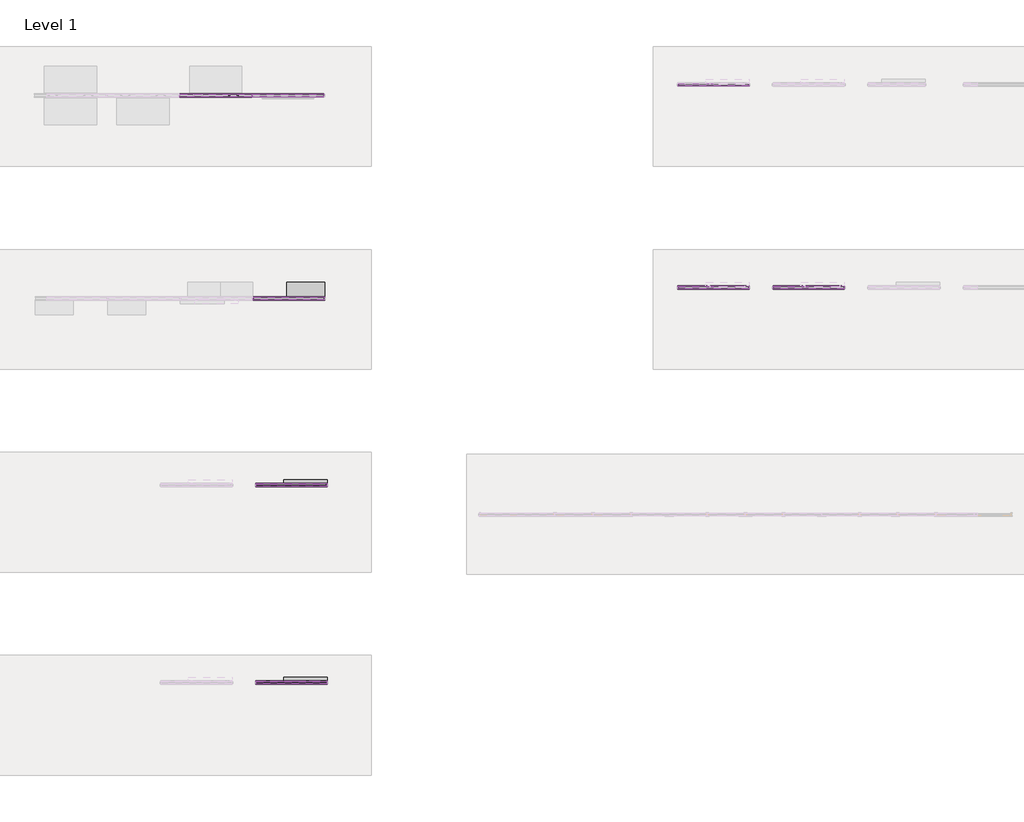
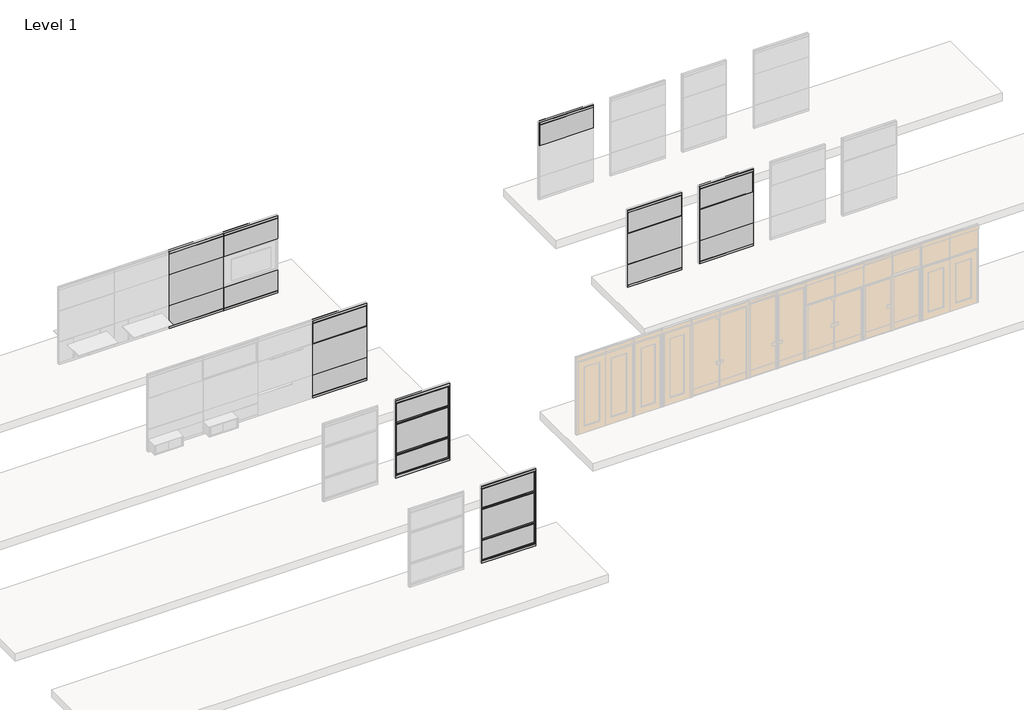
# One storey, part 7 of 13: 102 proxies, 3 furniture elements.
"""IFC4 building model written with IfcOpenShell, lengths in millimetres."""

from ifc_helpers import new_model, si_unit, origin, place, context, project, spatial, transform, mapped, element, save
from components import fascia_teknion_ceiling_and_base_ffb1_18eda79c, fascia_teknion_ceiling_and_base_ffb1_eec853f0, fascia_teknion_ceiling_and_base_ffb1_01755f40, fascia_teknion_ceiling_and_base_ffb1_68f9ae85, fascia_teknion_ceiling_and_base_ffb1_afe21305, fascia_teknion_ceiling_and_base_ffb1_57c76872, frame_teknion_horizontal_rail_fkk_5c31f45b, frame_teknion_horizontal_rail_fkk_aab90c89, frame_teknion_horizontal_rail_fkk_86cbbdfc, frame_teknion_landscape_vertical_post_b621eeab, glass_fascia_c39cd329, glass_fascia_9be81d33, glass_fascia_3dd16702, glass_fascia_dc85a8b2, glass_fascia_e55c546c, panel_fascia_teknion_level_i_6b417b37, level_i_b1a3b441, level_i_4afae145, level_i_45b542d7, level_i_5a75796b, level_i_bottom_8ccd5de8, level_i_top_caefc860, panel_fascia_teknion_level_ii_750ba18f, level_ii_bdfab47d, level_ii_231fb084, level_ii_554533ae, level_ii_4f3a5f4c, level_ii_0c7391c9, level_ii_bottom_46093f10, level_iii_45eca7cc, level_iii_4951afc5, level_iii_1ffc0a55, level_iii_bffd5232, panel_fascia_teknion_level_i_ec07af2e, panel_fascia_teknion_level_iii_34db1994, panel_fascia_teknion_level_iii_4fd3d2fe, aluminum_shelf_9e608764, furniture_d19da1b5

model = new_model("IFC4")

# Units and contexts
model_context = context("Model", 3, world=origin())
ifc_project = project(units=[si_unit("LENGTHUNIT", "METRE", prefix="MILLI")], contexts=[model_context])

# Site, building, storey
site = spatial("IfcSite", under=ifc_project)
building = spatial("IfcBuilding", under=site)
storey = spatial("IfcBuildingStorey", under=building, Name="Level 1", Elevation=0.0)

# Proxies
placement = place(None, origin())
fascia_teknion_ceiling_and_base_ffb1_shape = fascia_teknion_ceiling_and_base_ffb1_18eda79c(model_context)
element("IfcBuildingElementProxy", 1, Name="Fascia-Teknion-Ceiling_and_Base : FFB1", ObjectType="Fascia-Teknion-Ceiling_and_Base : FFB1", at=placement, inside=storey, context=model_context, shape_type="MappedRepresentation", body=[
    mapped(fascia_teknion_ceiling_and_base_ffb1_shape, transform((-18726.1661615, 16394.5429796, 15.875), x_axis=(1.0, 0.0, 0.0), y_axis=(0.0, 1.0, 0.0), z_axis=(0.0, 0.0, 1.0))),
])
element("IfcBuildingElementProxy", 2, Name="Fascia-Teknion-Ceiling_and_Base : FFB1", ObjectType="Fascia-Teknion-Ceiling_and_Base : FFB1", at=placement, inside=storey, context=model_context, shape_type="MappedRepresentation", body=[
    mapped(fascia_teknion_ceiling_and_base_ffb1_shape, transform((-16059.1661615, 16394.5429796, 15.875), x_axis=(1.0, 0.0, 0.0), y_axis=(0.0, 1.0, 0.0), z_axis=(0.0, 0.0, 1.0))),
])
element("IfcBuildingElementProxy", 3, Name="Fascia-Teknion-Ceiling_and_Base : FFB1", ObjectType="Fascia-Teknion-Ceiling_and_Base : FFB1", at=placement, inside=storey, context=model_context, shape_type="MappedRepresentation", body=[
    mapped(fascia_teknion_ceiling_and_base_ffb1_shape, transform((-30537.1661615, 10865.4163277, 15.875), x_axis=(1.0, 0.0, 0.0), y_axis=(0.0, 1.0, 0.0), z_axis=(0.0, 0.0, 1.0))),
])
element("IfcBuildingElementProxy", 4, Name="Fascia-Teknion-Ceiling_and_Base : FFB1", ObjectType="Fascia-Teknion-Ceiling_and_Base : FFB1", at=placement, inside=storey, context=model_context, shape_type="MappedRepresentation", body=[
    mapped(fascia_teknion_ceiling_and_base_ffb1_shape, transform((-30537.1661615, 10946.4423277, 15.875), x_axis=(1.0, 0.0, 0.0), y_axis=(0.0, 1.0, 0.0), z_axis=(0.0, 0.0, 1.0))),
])
element("IfcBuildingElementProxy", 5, Name="Fascia-Teknion-Ceiling_and_Base : FFB1", ObjectType="Fascia-Teknion-Ceiling_and_Base : FFB1", at=placement, inside=storey, context=model_context, shape_type="MappedRepresentation", body=[
    mapped(fascia_teknion_ceiling_and_base_ffb1_shape, transform((-30537.1661615, 10865.4163277, 2950.845), x_axis=(1.0, 0.0, 0.0), y_axis=(0.0, 1.0, 0.0), z_axis=(0.0, 0.0, 1.0))),
])
element("IfcBuildingElementProxy", 6, Name="Fascia-Teknion-Ceiling_and_Base : FFB1", ObjectType="Fascia-Teknion-Ceiling_and_Base : FFB1", at=placement, inside=storey, context=model_context, shape_type="MappedRepresentation", body=[
    mapped(fascia_teknion_ceiling_and_base_ffb1_shape, transform((-30537.1661615, 10946.4423277, 2950.845), x_axis=(1.0, 0.0, 0.0), y_axis=(0.0, 1.0, 0.0), z_axis=(0.0, 0.0, 1.0))),
])
element("IfcBuildingElementProxy", 7, Name="Fascia-Teknion-Ceiling_and_Base : FFB1", ObjectType="Fascia-Teknion-Ceiling_and_Base : FFB1", at=placement, inside=storey, context=model_context, shape_type="MappedRepresentation", body=[
    mapped(fascia_teknion_ceiling_and_base_ffb1_shape, transform((-30537.1661615, 5336.0903277, 15.875), x_axis=(1.0, 0.0, 0.0), y_axis=(0.0, 1.0, 0.0), z_axis=(0.0, 0.0, 1.0))),
])
element("IfcBuildingElementProxy", 8, Name="Fascia-Teknion-Ceiling_and_Base : FFB1", ObjectType="Fascia-Teknion-Ceiling_and_Base : FFB1", at=placement, inside=storey, context=model_context, shape_type="MappedRepresentation", body=[
    mapped(fascia_teknion_ceiling_and_base_ffb1_shape, transform((-30537.1661615, 5417.1163277, 15.875), x_axis=(1.0, 0.0, 0.0), y_axis=(0.0, 1.0, 0.0), z_axis=(0.0, 0.0, 1.0))),
])
element("IfcBuildingElementProxy", 9, Name="Fascia-Teknion-Ceiling_and_Base : FFB1", ObjectType="Fascia-Teknion-Ceiling_and_Base : FFB1", at=placement, inside=storey, context=model_context, shape_type="MappedRepresentation", body=[
    mapped(fascia_teknion_ceiling_and_base_ffb1_shape, transform((-30537.1661615, 5336.0903277, 2950.845), x_axis=(1.0, 0.0, 0.0), y_axis=(0.0, 1.0, 0.0), z_axis=(0.0, 0.0, 1.0))),
])
element("IfcBuildingElementProxy", 10, Name="Fascia-Teknion-Ceiling_and_Base : FFB1", ObjectType="Fascia-Teknion-Ceiling_and_Base : FFB1", at=placement, inside=storey, context=model_context, shape_type="MappedRepresentation", body=[
    mapped(fascia_teknion_ceiling_and_base_ffb1_shape, transform((-30537.1661615, 5417.1163277, 2950.845), x_axis=(1.0, 0.0, 0.0), y_axis=(0.0, 1.0, 0.0), z_axis=(0.0, 0.0, 1.0))),
])
fascia_teknion_ceiling_and_base_ffb1_2_shape = fascia_teknion_ceiling_and_base_ffb1_eec853f0(model_context)
element("IfcBuildingElementProxy", 11, Name="Fascia-Teknion-Ceiling_and_Base : FFB1", ObjectType="Fascia-Teknion-Ceiling_and_Base : FFB1", at=placement, inside=storey, context=model_context, shape_type="MappedRepresentation", body=[
    mapped(fascia_teknion_ceiling_and_base_ffb1_2_shape, transform((-30611.5018491, 16151.7189796, 15.875), x_axis=(1.0, 0.0, 0.0), y_axis=(0.0, 1.0, 0.0), z_axis=(0.0, 0.0, 1.0))),
])
fascia_teknion_ceiling_and_base_ffb1_3_shape = fascia_teknion_ceiling_and_base_ffb1_01755f40(model_context)
element("IfcBuildingElementProxy", 12, Name="Fascia-Teknion-Ceiling_and_Base : FFB1", ObjectType="Fascia-Teknion-Ceiling_and_Base : FFB1", at=placement, inside=storey, context=model_context, shape_type="MappedRepresentation", body=[
    mapped(fascia_teknion_ceiling_and_base_ffb1_3_shape, transform((-30611.5018491, 16089.7429796, 15.875), x_axis=(1.0, 0.0, 0.0), y_axis=(0.0, 1.0, 0.0), z_axis=(0.0, 0.0, 1.0))),
])
fascia_teknion_ceiling_and_base_ffb1_4_shape = fascia_teknion_ceiling_and_base_ffb1_68f9ae85(model_context)
element("IfcBuildingElementProxy", 13, Name="Fascia-Teknion-Ceiling_and_Base : FFB1", ObjectType="Fascia-Teknion-Ceiling_and_Base : FFB1", at=placement, inside=storey, context=model_context, shape_type="MappedRepresentation", body=[
    mapped(fascia_teknion_ceiling_and_base_ffb1_4_shape, transform((-32661.9069272, 21771.4689796, 15.875), x_axis=(1.0, 0.0, 0.0), y_axis=(0.0, 1.0, 0.0), z_axis=(0.0, 0.0, 1.0))),
])
element("IfcBuildingElementProxy", 14, Name="Fascia-Teknion-Ceiling_and_Base : FFB1", ObjectType="Fascia-Teknion-Ceiling_and_Base : FFB1", at=placement, inside=storey, context=model_context, shape_type="MappedRepresentation", body=[
    mapped(fascia_teknion_ceiling_and_base_ffb1_4_shape, transform((-32661.9069272, 21833.4449796, 15.875), x_axis=(-1.0, 0.0, 0.0), y_axis=(0.0, -1.0, 0.0), z_axis=(0.0, 0.0, 1.0))),
])
fascia_teknion_ceiling_and_base_ffb1_5_shape = fascia_teknion_ceiling_and_base_ffb1_afe21305(model_context)
element("IfcBuildingElementProxy", 15, Name="Fascia-Teknion-Ceiling_and_Base : FFB1", ObjectType="Fascia-Teknion-Ceiling_and_Base : FFB1", at=placement, inside=storey, context=model_context, shape_type="MappedRepresentation", body=[
    mapped(fascia_teknion_ceiling_and_base_ffb1_5_shape, transform((-18726.1661615, 16456.5189796, 15.875), x_axis=(1.0, 0.0, 0.0), y_axis=(0.0, 1.0, 0.0), z_axis=(0.0, 0.0, 1.0))),
])
element("IfcBuildingElementProxy", 16, Name="Fascia-Teknion-Ceiling_and_Base : FFB1", ObjectType="Fascia-Teknion-Ceiling_and_Base : FFB1", at=placement, inside=storey, context=model_context, shape_type="MappedRepresentation", body=[
    mapped(fascia_teknion_ceiling_and_base_ffb1_5_shape, transform((-16059.1661615, 16456.5189796, 15.875), x_axis=(1.0, 0.0, 0.0), y_axis=(0.0, 1.0, 0.0), z_axis=(0.0, 0.0, 1.0))),
])
element("IfcBuildingElementProxy", 17, Name="Fascia-Teknion-Ceiling_and_Base : FFC", ObjectType="Fascia-Teknion-Ceiling_and_Base : FFC", at=placement, inside=storey, context=model_context, shape_type="MappedRepresentation", body=[
    mapped(fascia_teknion_ceiling_and_base_ffb1_2_shape, transform((-30611.5018491, 16151.7189796, 2950.845), x_axis=(1.0, 0.0, 0.0), y_axis=(0.0, 1.0, 0.0), z_axis=(0.0, 0.0, 1.0))),
])
element("IfcBuildingElementProxy", 18, Name="Fascia-Teknion-Ceiling_and_Base : FFC", ObjectType="Fascia-Teknion-Ceiling_and_Base : FFC", at=placement, inside=storey, context=model_context, shape_type="MappedRepresentation", body=[
    mapped(fascia_teknion_ceiling_and_base_ffb1_3_shape, transform((-30611.5018491, 16089.7429796, 2950.845), x_axis=(1.0, 0.0, 0.0), y_axis=(0.0, 1.0, 0.0), z_axis=(0.0, 0.0, 1.0))),
])
fascia_teknion_ceiling_and_base_ffb1_6_shape = fascia_teknion_ceiling_and_base_ffb1_57c76872(model_context)
element("IfcBuildingElementProxy", 19, Name="Fascia-Teknion-Ceiling_and_Base : FFC", ObjectType="Fascia-Teknion-Ceiling_and_Base : FFC", at=placement, inside=storey, context=model_context, shape_type="MappedRepresentation", body=[
    mapped(fascia_teknion_ceiling_and_base_ffb1_6_shape, transform((-32661.9069272, 21833.4449796, 2950.845), x_axis=(1.0, 0.0, 0.0), y_axis=(0.0, 1.0, 0.0), z_axis=(0.0, 0.0, 1.0))),
])
element("IfcBuildingElementProxy", 20, Name="Fascia-Teknion-Ceiling_and_Base : FFC", ObjectType="Fascia-Teknion-Ceiling_and_Base : FFC", at=placement, inside=storey, context=model_context, shape_type="MappedRepresentation", body=[
    mapped(fascia_teknion_ceiling_and_base_ffb1_4_shape, transform((-32661.9069272, 21771.4689796, 2950.845), x_axis=(1.0, 0.0, 0.0), y_axis=(0.0, 1.0, 0.0), z_axis=(0.0, 0.0, 1.0))),
])
element("IfcBuildingElementProxy", 21, Name="Fascia-Teknion-Ceiling_and_Base : FFC", ObjectType="Fascia-Teknion-Ceiling_and_Base : FFC", at=placement, inside=storey, context=model_context, shape_type="MappedRepresentation", body=[
    mapped(fascia_teknion_ceiling_and_base_ffb1_5_shape, transform((-18726.1661615, 22138.2449796, 2950.845), x_axis=(1.0, 0.0, 0.0), y_axis=(0.0, 1.0, 0.0), z_axis=(0.0, 0.0, 1.0))),
])
element("IfcBuildingElementProxy", 22, Name="Fascia-Teknion-Ceiling_and_Base : FFC", ObjectType="Fascia-Teknion-Ceiling_and_Base : FFC", at=placement, inside=storey, context=model_context, shape_type="MappedRepresentation", body=[
    mapped(fascia_teknion_ceiling_and_base_ffb1_5_shape, transform((-18726.1661615, 16456.5189796, 2950.845), x_axis=(1.0, 0.0, 0.0), y_axis=(0.0, 1.0, 0.0), z_axis=(0.0, 0.0, 1.0))),
])
element("IfcBuildingElementProxy", 23, Name="Fascia-Teknion-Ceiling_and_Base : FFC", ObjectType="Fascia-Teknion-Ceiling_and_Base : FFC", at=placement, inside=storey, context=model_context, shape_type="MappedRepresentation", body=[
    mapped(fascia_teknion_ceiling_and_base_ffb1_5_shape, transform((-16059.1661615, 16456.5189796, 2950.845), x_axis=(1.0, 0.0, 0.0), y_axis=(0.0, 1.0, 0.0), z_axis=(0.0, 0.0, 1.0))),
])
element("IfcBuildingElementProxy", 24, Name="Fascia-Teknion-Ceiling_and_Base : FFC", ObjectType="Fascia-Teknion-Ceiling_and_Base : FFC", at=placement, inside=storey, context=model_context, shape_type="MappedRepresentation", body=[
    mapped(fascia_teknion_ceiling_and_base_ffb1_shape, transform((-18726.1661615, 22076.2689796, 2950.845), x_axis=(1.0, 0.0, 0.0), y_axis=(0.0, 1.0, 0.0), z_axis=(0.0, 0.0, 1.0))),
])
element("IfcBuildingElementProxy", 25, Name="Fascia-Teknion-Ceiling_and_Base : FFC", ObjectType="Fascia-Teknion-Ceiling_and_Base : FFC", at=placement, inside=storey, context=model_context, shape_type="MappedRepresentation", body=[
    mapped(fascia_teknion_ceiling_and_base_ffb1_shape, transform((-18726.1661615, 16394.5429796, 2950.845), x_axis=(1.0, 0.0, 0.0), y_axis=(0.0, 1.0, 0.0), z_axis=(0.0, 0.0, 1.0))),
])
element("IfcBuildingElementProxy", 26, Name="Fascia-Teknion-Ceiling_and_Base : FFC", ObjectType="Fascia-Teknion-Ceiling_and_Base : FFC", at=placement, inside=storey, context=model_context, shape_type="MappedRepresentation", body=[
    mapped(fascia_teknion_ceiling_and_base_ffb1_shape, transform((-16059.1661615, 16394.5429796, 2950.845), x_axis=(1.0, 0.0, 0.0), y_axis=(0.0, 1.0, 0.0), z_axis=(0.0, 0.0, 1.0))),
])
element("IfcBuildingElementProxy", 27, Name="Fascia-Teknion-Ceiling_and_Base : FPB1", ObjectType="Fascia-Teknion-Ceiling_and_Base : FPB1", at=placement, inside=storey, context=model_context, shape_type="MappedRepresentation", body=[
    mapped(fascia_teknion_ceiling_and_base_ffb1_2_shape, transform((-30636.9018491, 21752.4495841, 15.875), x_axis=(1.0, 0.0, 0.0), y_axis=(0.0, 1.0, 0.0), z_axis=(0.0, 0.0, 1.0))),
])
element("IfcBuildingElementProxy", 28, Name="Fascia-Teknion-Ceiling_and_Base : FPB1", ObjectType="Fascia-Teknion-Ceiling_and_Base : FPB1", at=placement, inside=storey, context=model_context, shape_type="MappedRepresentation", body=[
    mapped(fascia_teknion_ceiling_and_base_ffb1_3_shape, transform((-30636.9018491, 21852.4620841, 15.875), x_axis=(1.0, 0.0, 0.0), y_axis=(0.0, 1.0, 0.0), z_axis=(0.0, 0.0, 1.0))),
])
element("IfcBuildingElementProxy", 29, Name="Fascia-Teknion-Ceiling_and_Base : FPC", ObjectType="Fascia-Teknion-Ceiling_and_Base : FPC", at=placement, inside=storey, context=model_context, shape_type="MappedRepresentation", body=[
    mapped(fascia_teknion_ceiling_and_base_ffb1_2_shape, transform((-30636.9018491, 21752.4495841, 2950.845), x_axis=(1.0, 0.0, 0.0), y_axis=(0.0, 1.0, 0.0), z_axis=(0.0, 0.0, 1.0))),
])
element("IfcBuildingElementProxy", 30, Name="Fascia-Teknion-Ceiling_and_Base : FPC", ObjectType="Fascia-Teknion-Ceiling_and_Base : FPC", at=placement, inside=storey, context=model_context, shape_type="MappedRepresentation", body=[
    mapped(fascia_teknion_ceiling_and_base_ffb1_3_shape, transform((-30636.9018491, 21852.4620841, 2950.845), x_axis=(1.0, 0.0, 0.0), y_axis=(0.0, 1.0, 0.0), z_axis=(0.0, 0.0, 1.0))),
])
frame_teknion_horizontal_rail_fkk_shape = frame_teknion_horizontal_rail_fkk_5c31f45b(model_context)
element("IfcBuildingElementProxy", 31, Name="Frame-Teknion-Horizontal_Rail : FPKK", ObjectType="Frame-Teknion-Horizontal_Rail : FPKK", at=placement, inside=storey, context=model_context, shape_type="MappedRepresentation", body=[
    mapped(frame_teknion_horizontal_rail_fkk_shape, transform((-30636.9018491, 21802.4558341, 97.282), x_axis=(1.0, 0.0, 0.0), y_axis=(0.0, 1.0, 0.0), z_axis=(0.0, 0.0, 1.0))),
])
element("IfcBuildingElementProxy", 32, Name="Frame-Teknion-Horizontal_Rail : FPKK", ObjectType="Frame-Teknion-Horizontal_Rail : FPKK", at=placement, inside=storey, context=model_context, shape_type="MappedRepresentation", body=[
    mapped(frame_teknion_horizontal_rail_fkk_shape, transform((-30636.9018491, 21802.4558341, 917.575), x_axis=(1.0, 0.0, 0.0), y_axis=(0.0, 1.0, 0.0), z_axis=(0.0, 0.0, 1.0))),
])
element("IfcBuildingElementProxy", 33, Name="Frame-Teknion-Horizontal_Rail : FPKK", ObjectType="Frame-Teknion-Horizontal_Rail : FPKK", at=placement, inside=storey, context=model_context, shape_type="MappedRepresentation", body=[
    mapped(frame_teknion_horizontal_rail_fkk_shape, transform((-30636.9018491, 21802.4558341, 2136.775), x_axis=(1.0, 0.0, 0.0), y_axis=(0.0, 1.0, 0.0), z_axis=(0.0, 0.0, 1.0))),
])
element("IfcBuildingElementProxy", 34, Name="Frame-Teknion-Horizontal_Rail : FPKK", ObjectType="Frame-Teknion-Horizontal_Rail : FPKK", at=placement, inside=storey, context=model_context, shape_type="MappedRepresentation", body=[
    mapped(frame_teknion_horizontal_rail_fkk_shape, transform((-30636.9018491, 21802.4558341, 2947.67), x_axis=(1.0, 0.0, 0.0), y_axis=(0.0, 1.0, 0.0), z_axis=(0.0, 0.0, 1.0))),
])
element("IfcBuildingElementProxy", 35, Name="Frame-Teknion-Horizontal_Rail : FKK", ObjectType="Frame-Teknion-Horizontal_Rail : FKK", at=placement, inside=storey, context=model_context, shape_type="MappedRepresentation", body=[
    mapped(frame_teknion_horizontal_rail_fkk_shape, transform((-30611.5018491, 16120.7309796, 100.4514438), x_axis=(1.0, 0.0, 0.0), y_axis=(0.0, 1.0, 0.0), z_axis=(0.0, 0.0, 1.0))),
])
element("IfcBuildingElementProxy", 36, Name="Frame-Teknion-Horizontal_Rail : FKK", ObjectType="Frame-Teknion-Horizontal_Rail : FKK", at=placement, inside=storey, context=model_context, shape_type="MappedRepresentation", body=[
    mapped(frame_teknion_horizontal_rail_fkk_shape, transform((-30611.5018491, 16120.7309796, 2947.5374437), x_axis=(1.0, 0.0, 0.0), y_axis=(0.0, 1.0, 0.0), z_axis=(0.0, 0.0, 1.0))),
])
frame_teknion_horizontal_rail_fkk_2_shape = frame_teknion_horizontal_rail_fkk_aab90c89(model_context)
element("IfcBuildingElementProxy", 37, Name="Frame-Teknion-Horizontal_Rail : FKK", ObjectType="Frame-Teknion-Horizontal_Rail : FKK", at=placement, inside=storey, context=model_context, shape_type="MappedRepresentation", body=[
    mapped(frame_teknion_horizontal_rail_fkk_2_shape, transform((-32661.9069272, 21802.4569796, 100.4514438), x_axis=(1.0, 0.0, 0.0), y_axis=(0.0, 1.0, 0.0), z_axis=(0.0, 0.0, 1.0))),
])
element("IfcBuildingElementProxy", 38, Name="Frame-Teknion-Horizontal_Rail : FKK", ObjectType="Frame-Teknion-Horizontal_Rail : FKK", at=placement, inside=storey, context=model_context, shape_type="MappedRepresentation", body=[
    mapped(frame_teknion_horizontal_rail_fkk_2_shape, transform((-32661.9069272, 21802.4569796, 2947.5374437), x_axis=(1.0, 0.0, 0.0), y_axis=(0.0, 1.0, 0.0), z_axis=(0.0, 0.0, 1.0))),
])
frame_teknion_horizontal_rail_fkk_3_shape = frame_teknion_horizontal_rail_fkk_86cbbdfc(model_context)
element("IfcBuildingElementProxy", 39, Name="Frame-Teknion-Horizontal_Rail : FKK", ObjectType="Frame-Teknion-Horizontal_Rail : FKK", at=placement, inside=storey, context=model_context, shape_type="MappedRepresentation", body=[
    mapped(frame_teknion_horizontal_rail_fkk_3_shape, transform((-30537.1661615, 10896.4043277, 100.4514438), x_axis=(1.0, 0.0, 0.0), y_axis=(0.0, 1.0, 0.0), z_axis=(0.0, 0.0, 1.0))),
])
element("IfcBuildingElementProxy", 40, Name="Frame-Teknion-Horizontal_Rail : FKK", ObjectType="Frame-Teknion-Horizontal_Rail : FKK", at=placement, inside=storey, context=model_context, shape_type="MappedRepresentation", body=[
    mapped(frame_teknion_horizontal_rail_fkk_3_shape, transform((-30537.1661615, 10896.4043277, 2947.5374437), x_axis=(1.0, 0.0, 0.0), y_axis=(0.0, 1.0, 0.0), z_axis=(0.0, 0.0, 1.0))),
])
element("IfcBuildingElementProxy", 41, Name="Frame-Teknion-Horizontal_Rail : FKK", ObjectType="Frame-Teknion-Horizontal_Rail : FKK", at=placement, inside=storey, context=model_context, shape_type="MappedRepresentation", body=[
    mapped(frame_teknion_horizontal_rail_fkk_3_shape, transform((-30537.1661615, 5367.0783277, 100.4514438), x_axis=(1.0, 0.0, 0.0), y_axis=(0.0, 1.0, 0.0), z_axis=(0.0, 0.0, 1.0))),
])
element("IfcBuildingElementProxy", 42, Name="Frame-Teknion-Horizontal_Rail : FKK", ObjectType="Frame-Teknion-Horizontal_Rail : FKK", at=placement, inside=storey, context=model_context, shape_type="MappedRepresentation", body=[
    mapped(frame_teknion_horizontal_rail_fkk_3_shape, transform((-30537.1661615, 5367.0783277, 2947.5374437), x_axis=(1.0, 0.0, 0.0), y_axis=(0.0, 1.0, 0.0), z_axis=(0.0, 0.0, 1.0))),
])
element("IfcBuildingElementProxy", 43, Name="Frame-Teknion-Horizontal_Rail : FKK", ObjectType="Frame-Teknion-Horizontal_Rail : FKK", at=placement, inside=storey, context=model_context, shape_type="MappedRepresentation", body=[
    mapped(frame_teknion_horizontal_rail_fkk_3_shape, transform((-18726.1661615, 22107.2569796, 100.4514438), x_axis=(1.0, 0.0, 0.0), y_axis=(0.0, 1.0, 0.0), z_axis=(0.0, 0.0, 1.0))),
])
element("IfcBuildingElementProxy", 44, Name="Frame-Teknion-Horizontal_Rail : FKK", ObjectType="Frame-Teknion-Horizontal_Rail : FKK", at=placement, inside=storey, context=model_context, shape_type="MappedRepresentation", body=[
    mapped(frame_teknion_horizontal_rail_fkk_3_shape, transform((-18726.1661615, 22107.2569796, 2947.5374437), x_axis=(1.0, 0.0, 0.0), y_axis=(0.0, 1.0, 0.0), z_axis=(0.0, 0.0, 1.0))),
])
element("IfcBuildingElementProxy", 45, Name="Frame-Teknion-Horizontal_Rail : FKK", ObjectType="Frame-Teknion-Horizontal_Rail : FKK", at=placement, inside=storey, context=model_context, shape_type="MappedRepresentation", body=[
    mapped(frame_teknion_horizontal_rail_fkk_3_shape, transform((-18726.1661615, 16425.5309796, 100.4514438), x_axis=(1.0, 0.0, 0.0), y_axis=(0.0, 1.0, 0.0), z_axis=(0.0, 0.0, 1.0))),
])
element("IfcBuildingElementProxy", 46, Name="Frame-Teknion-Horizontal_Rail : FKK", ObjectType="Frame-Teknion-Horizontal_Rail : FKK", at=placement, inside=storey, context=model_context, shape_type="MappedRepresentation", body=[
    mapped(frame_teknion_horizontal_rail_fkk_3_shape, transform((-18726.1661615, 16425.5309796, 2947.5374437), x_axis=(1.0, 0.0, 0.0), y_axis=(0.0, 1.0, 0.0), z_axis=(0.0, 0.0, 1.0))),
])
element("IfcBuildingElementProxy", 47, Name="Frame-Teknion-Horizontal_Rail : FKK", ObjectType="Frame-Teknion-Horizontal_Rail : FKK", at=placement, inside=storey, context=model_context, shape_type="MappedRepresentation", body=[
    mapped(frame_teknion_horizontal_rail_fkk_3_shape, transform((-16059.1661615, 16425.5309796, 100.4514438), x_axis=(1.0, 0.0, 0.0), y_axis=(0.0, 1.0, 0.0), z_axis=(0.0, 0.0, 1.0))),
])
element("IfcBuildingElementProxy", 48, Name="Frame-Teknion-Horizontal_Rail : FKK", ObjectType="Frame-Teknion-Horizontal_Rail : FKK", at=placement, inside=storey, context=model_context, shape_type="MappedRepresentation", body=[
    mapped(frame_teknion_horizontal_rail_fkk_3_shape, transform((-16059.1661615, 16425.5309796, 2947.5374437), x_axis=(1.0, 0.0, 0.0), y_axis=(0.0, 1.0, 0.0), z_axis=(0.0, 0.0, 1.0))),
])
element("IfcBuildingElementProxy", 49, Name="Frame-Teknion-Landscape_Horizontal_Rail : FLKH", ObjectType="Frame-Teknion-Landscape_Horizontal_Rail : FLKH", at=placement, inside=storey, context=model_context, shape_type="MappedRepresentation", body=[
    mapped(frame_teknion_horizontal_rail_fkk_shape, transform((-30611.5018491, 16120.7309796, 917.575), x_axis=(1.0, 0.0, 0.0), y_axis=(0.0, 1.0, 0.0), z_axis=(0.0, 0.0, 1.0))),
])
element("IfcBuildingElementProxy", 50, Name="Frame-Teknion-Landscape_Horizontal_Rail : FLKH", ObjectType="Frame-Teknion-Landscape_Horizontal_Rail : FLKH", at=placement, inside=storey, context=model_context, shape_type="MappedRepresentation", body=[
    mapped(frame_teknion_horizontal_rail_fkk_shape, transform((-30611.5018491, 16120.7309796, 2136.775), x_axis=(1.0, 0.0, 0.0), y_axis=(0.0, 1.0, 0.0), z_axis=(0.0, 0.0, 1.0))),
])
element("IfcBuildingElementProxy", 51, Name="Frame-Teknion-Landscape_Horizontal_Rail : FLKH", ObjectType="Frame-Teknion-Landscape_Horizontal_Rail : FLKH", at=placement, inside=storey, context=model_context, shape_type="MappedRepresentation", body=[
    mapped(frame_teknion_horizontal_rail_fkk_shape, transform((-30611.5018491, 16120.7309796, 536.575), x_axis=(1.0, 0.0, 0.0), y_axis=(0.0, 1.0, 0.0), z_axis=(0.0, 0.0, 1.0))),
])
element("IfcBuildingElementProxy", 52, Name="Frame-Teknion-Landscape_Horizontal_Rail : FLKH", ObjectType="Frame-Teknion-Landscape_Horizontal_Rail : FLKH", at=placement, inside=storey, context=model_context, shape_type="MappedRepresentation", body=[
    mapped(frame_teknion_horizontal_rail_fkk_2_shape, transform((-32661.9069272, 21802.4569796, 2136.775), x_axis=(1.0, 0.0, 0.0), y_axis=(0.0, 1.0, 0.0), z_axis=(0.0, 0.0, 1.0))),
])
element("IfcBuildingElementProxy", 53, Name="Frame-Teknion-Landscape_Horizontal_Rail : FLKH", ObjectType="Frame-Teknion-Landscape_Horizontal_Rail : FLKH", at=placement, inside=storey, context=model_context, shape_type="MappedRepresentation", body=[
    mapped(frame_teknion_horizontal_rail_fkk_3_shape, transform((-30537.1661615, 10896.4043277, 917.575), x_axis=(1.0, 0.0, 0.0), y_axis=(0.0, 1.0, 0.0), z_axis=(0.0, 0.0, 1.0))),
])
element("IfcBuildingElementProxy", 54, Name="Frame-Teknion-Landscape_Horizontal_Rail : FLKH", ObjectType="Frame-Teknion-Landscape_Horizontal_Rail : FLKH", at=placement, inside=storey, context=model_context, shape_type="MappedRepresentation", body=[
    mapped(frame_teknion_horizontal_rail_fkk_3_shape, transform((-30537.1661615, 10896.4043277, 2136.775), x_axis=(1.0, 0.0, 0.0), y_axis=(0.0, 1.0, 0.0), z_axis=(0.0, 0.0, 1.0))),
])
element("IfcBuildingElementProxy", 55, Name="Frame-Teknion-Landscape_Horizontal_Rail : FLKH", ObjectType="Frame-Teknion-Landscape_Horizontal_Rail : FLKH", at=placement, inside=storey, context=model_context, shape_type="MappedRepresentation", body=[
    mapped(frame_teknion_horizontal_rail_fkk_3_shape, transform((-30537.1661615, 5367.0783277, 917.575), x_axis=(1.0, 0.0, 0.0), y_axis=(0.0, 1.0, 0.0), z_axis=(0.0, 0.0, 1.0))),
])
element("IfcBuildingElementProxy", 56, Name="Frame-Teknion-Landscape_Horizontal_Rail : FLKH", ObjectType="Frame-Teknion-Landscape_Horizontal_Rail : FLKH", at=placement, inside=storey, context=model_context, shape_type="MappedRepresentation", body=[
    mapped(frame_teknion_horizontal_rail_fkk_3_shape, transform((-30537.1661615, 5367.0783277, 2136.775), x_axis=(1.0, 0.0, 0.0), y_axis=(0.0, 1.0, 0.0), z_axis=(0.0, 0.0, 1.0))),
])
element("IfcBuildingElementProxy", 57, Name="Frame-Teknion-Landscape_Horizontal_Rail : FLKH", ObjectType="Frame-Teknion-Landscape_Horizontal_Rail : FLKH", at=placement, inside=storey, context=model_context, shape_type="MappedRepresentation", body=[
    mapped(frame_teknion_horizontal_rail_fkk_3_shape, transform((-18726.1661615, 22107.2569796, 917.575), x_axis=(1.0, 0.0, 0.0), y_axis=(0.0, 1.0, 0.0), z_axis=(0.0, 0.0, 1.0))),
])
element("IfcBuildingElementProxy", 58, Name="Frame-Teknion-Landscape_Horizontal_Rail : FLKH", ObjectType="Frame-Teknion-Landscape_Horizontal_Rail : FLKH", at=placement, inside=storey, context=model_context, shape_type="MappedRepresentation", body=[
    mapped(frame_teknion_horizontal_rail_fkk_3_shape, transform((-18726.1661615, 22107.2569796, 2136.775), x_axis=(1.0, 0.0, 0.0), y_axis=(0.0, 1.0, 0.0), z_axis=(0.0, 0.0, 1.0))),
])
element("IfcBuildingElementProxy", 59, Name="Frame-Teknion-Landscape_Horizontal_Rail : FLKH", ObjectType="Frame-Teknion-Landscape_Horizontal_Rail : FLKH", at=placement, inside=storey, context=model_context, shape_type="MappedRepresentation", body=[
    mapped(frame_teknion_horizontal_rail_fkk_3_shape, transform((-18726.1661615, 22107.2569796, 1527.175), x_axis=(1.0, 0.0, 0.0), y_axis=(0.0, 1.0, 0.0), z_axis=(0.0, 0.0, 1.0))),
])
element("IfcBuildingElementProxy", 60, Name="Frame-Teknion-Landscape_Horizontal_Rail : FLKH", ObjectType="Frame-Teknion-Landscape_Horizontal_Rail : FLKH", at=placement, inside=storey, context=model_context, shape_type="MappedRepresentation", body=[
    mapped(frame_teknion_horizontal_rail_fkk_3_shape, transform((-18726.1661615, 16425.5309796, 917.575), x_axis=(1.0, 0.0, 0.0), y_axis=(0.0, 1.0, 0.0), z_axis=(0.0, 0.0, 1.0))),
])
element("IfcBuildingElementProxy", 61, Name="Frame-Teknion-Landscape_Horizontal_Rail : FLKH", ObjectType="Frame-Teknion-Landscape_Horizontal_Rail : FLKH", at=placement, inside=storey, context=model_context, shape_type="MappedRepresentation", body=[
    mapped(frame_teknion_horizontal_rail_fkk_3_shape, transform((-18726.1661615, 16425.5309796, 2136.775), x_axis=(1.0, 0.0, 0.0), y_axis=(0.0, 1.0, 0.0), z_axis=(0.0, 0.0, 1.0))),
])
element("IfcBuildingElementProxy", 62, Name="Frame-Teknion-Landscape_Horizontal_Rail : FLKH", ObjectType="Frame-Teknion-Landscape_Horizontal_Rail : FLKH", at=placement, inside=storey, context=model_context, shape_type="MappedRepresentation", body=[
    mapped(frame_teknion_horizontal_rail_fkk_3_shape, transform((-16059.1661615, 16425.5309796, 917.575), x_axis=(1.0, 0.0, 0.0), y_axis=(0.0, 1.0, 0.0), z_axis=(0.0, 0.0, 1.0))),
])
element("IfcBuildingElementProxy", 63, Name="Frame-Teknion-Landscape_Horizontal_Rail : FLKH", ObjectType="Frame-Teknion-Landscape_Horizontal_Rail : FLKH", at=placement, inside=storey, context=model_context, shape_type="MappedRepresentation", body=[
    mapped(frame_teknion_horizontal_rail_fkk_3_shape, transform((-16059.1661615, 16425.5309796, 2136.775), x_axis=(1.0, 0.0, 0.0), y_axis=(0.0, 1.0, 0.0), z_axis=(0.0, 0.0, 1.0))),
])
element("IfcBuildingElementProxy", 64, Name="Frame-Teknion-Landscape_Horizontal_Rail : FLKH", ObjectType="Frame-Teknion-Landscape_Horizontal_Rail : FLKH", at=placement, inside=storey, context=model_context, shape_type="MappedRepresentation", body=[
    mapped(frame_teknion_horizontal_rail_fkk_3_shape, transform((-18726.1661615, 16425.5309796, 1527.175), x_axis=(1.0, 0.0, 0.0), y_axis=(0.0, 1.0, 0.0), z_axis=(0.0, 0.0, 1.0))),
])
frame_teknion_landscape_vertical_post_shape = frame_teknion_landscape_vertical_post_b621eeab(model_context)
element("IfcBuildingElementProxy", 65, Name="Frame-Teknion-Landscape_Vertical_Post : FLKV", ObjectType="Frame-Teknion-Landscape_Vertical_Post : FLKV", at=placement, inside=storey, context=model_context, shape_type="MappedRepresentation", body=[
    mapped(frame_teknion_landscape_vertical_post_shape, transform((-32050.7321272, 21802.4569796, 15.875), x_axis=(1.0000000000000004, 0.0, 0.0), y_axis=(0.0, 1.0000000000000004, 0.0), z_axis=(0.0, 0.0, 1.0))),
])
element("IfcBuildingElementProxy", 66, Name="Frame-Teknion-Landscape_Vertical_Post : FLKV", ObjectType="Frame-Teknion-Landscape_Vertical_Post : FLKV", at=placement, inside=storey, context=model_context, shape_type="MappedRepresentation", body=[
    mapped(frame_teknion_landscape_vertical_post_shape, transform((-32279.3321272, 21802.4569796, 15.875), x_axis=(1.0000000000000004, 0.0, 0.0), y_axis=(0.0, 1.0000000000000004, 0.0), z_axis=(0.0, 0.0, 1.0))),
])
glass_fascia_shape = glass_fascia_c39cd329(model_context)
element("IfcBuildingElementProxy", 67, Name="Panel-Fascia-Teknion-Altos-Glass : Glass Fascia", ObjectType="Panel-Fascia-Teknion-Altos-Glass : Glass Fascia", at=placement, inside=storey, context=model_context, shape_type="MappedRepresentation", body=[
    mapped(glass_fascia_shape, transform((-30537.1661615, 10896.4221871, 2136.775), x_axis=(1.0, 0.0, 0.0), y_axis=(0.0, 1.0, 0.0), z_axis=(0.0, 0.0, 1.0))),
])
element("IfcBuildingElementProxy", 68, Name="Panel-Fascia-Teknion-Altos-Glass : Glass Fascia", ObjectType="Panel-Fascia-Teknion-Altos-Glass : Glass Fascia", at=placement, inside=storey, context=model_context, shape_type="MappedRepresentation", body=[
    mapped(glass_fascia_shape, transform((-30537.1661615, 5367.0961871, 2136.775), x_axis=(1.0, 0.0, 0.0), y_axis=(0.0, 1.0, 0.0), z_axis=(0.0, 0.0, 1.0))),
])
glass_fascia_2_shape = glass_fascia_9be81d33(model_context)
element("IfcBuildingElementProxy", 69, Name="Panel-Fascia-Teknion-Altos-Glass : Glass Fascia", ObjectType="Panel-Fascia-Teknion-Altos-Glass : Glass Fascia", at=placement, inside=storey, context=model_context, shape_type="MappedRepresentation", body=[
    mapped(glass_fascia_2_shape, transform((-30537.1661615, 10896.4221871, 917.575), x_axis=(1.0, 0.0, 0.0), y_axis=(0.0, 1.0, 0.0), z_axis=(0.0, 0.0, 1.0))),
])
element("IfcBuildingElementProxy", 70, Name="Panel-Fascia-Teknion-Altos-Glass : Glass Fascia", ObjectType="Panel-Fascia-Teknion-Altos-Glass : Glass Fascia", at=placement, inside=storey, context=model_context, shape_type="MappedRepresentation", body=[
    mapped(glass_fascia_2_shape, transform((-30537.1661615, 5367.0961871, 917.575), x_axis=(1.0, 0.0, 0.0), y_axis=(0.0, 1.0, 0.0), z_axis=(0.0, 0.0, 1.0))),
])
glass_fascia_3_shape = glass_fascia_3dd16702(model_context)
element("IfcBuildingElementProxy", 71, Name="Panel-Fascia-Teknion-Altos-Glass : Glass Fascia", ObjectType="Panel-Fascia-Teknion-Altos-Glass : Glass Fascia", at=placement, inside=storey, context=model_context, shape_type="MappedRepresentation", body=[
    mapped(glass_fascia_3_shape, transform((-30537.1661615, 10896.4221871, 100.457), x_axis=(1.0, 0.0, 0.0), y_axis=(0.0, 1.0, 0.0), z_axis=(0.0, 0.0, 1.0))),
])
element("IfcBuildingElementProxy", 72, Name="Panel-Fascia-Teknion-Altos-Glass : Glass Fascia", ObjectType="Panel-Fascia-Teknion-Altos-Glass : Glass Fascia", at=placement, inside=storey, context=model_context, shape_type="MappedRepresentation", body=[
    mapped(glass_fascia_3_shape, transform((-30537.1661615, 5367.0961871, 100.457), x_axis=(1.0, 0.0, 0.0), y_axis=(0.0, 1.0, 0.0), z_axis=(0.0, 0.0, 1.0))),
])
glass_fascia_4_shape = glass_fascia_dc85a8b2(model_context)
element("IfcBuildingElementProxy", 73, Name="Panel-Fascia-Teknion-Altos-Glass : Glass Fascia", ObjectType="Panel-Fascia-Teknion-Altos-Glass : Glass Fascia", at=placement, inside=storey, context=model_context, shape_type="MappedRepresentation", body=[
    mapped(glass_fascia_4_shape, transform((-30611.5018491, 16120.748839, 2136.775), x_axis=(1.0, 0.0, 0.0), y_axis=(0.0, 1.0, 0.0), z_axis=(0.0, 0.0, 1.0))),
])
glass_fascia_5_shape = glass_fascia_e55c546c(model_context)
element("IfcBuildingElementProxy", 74, Name="Panel-Fascia-Teknion-Altos-Glass : Glass Fascia", ObjectType="Panel-Fascia-Teknion-Altos-Glass : Glass Fascia", at=placement, inside=storey, context=model_context, shape_type="MappedRepresentation", body=[
    mapped(glass_fascia_5_shape, transform((-18726.1661615, 16425.548839, 2136.775), x_axis=(1.0, 0.0, 0.0), y_axis=(0.0, 1.0, 0.0), z_axis=(0.0, 0.0, 1.0))),
])
element("IfcBuildingElementProxy", 75, Name="Panel-Fascia-Teknion-Altos-Glass : Glass Fascia", ObjectType="Panel-Fascia-Teknion-Altos-Glass : Glass Fascia", at=placement, inside=storey, context=model_context, shape_type="MappedRepresentation", body=[
    mapped(glass_fascia_5_shape, transform((-16059.1661615, 16425.548839, 2136.775), x_axis=(1.0, 0.0, 0.0), y_axis=(0.0, 1.0, 0.0), z_axis=(0.0, 0.0, 1.0))),
])
panel_fascia_teknion_level_i_shape = panel_fascia_teknion_level_i_6b417b37(model_context)
element("IfcBuildingElementProxy", 76, Name="Panel-Fascia-Teknion-Altos-Landscape : Level I", ObjectType="Panel-Fascia-Teknion-Altos-Landscape : Level I", at=placement, inside=storey, context=model_context, shape_type="MappedRepresentation", body=[
    mapped(panel_fascia_teknion_level_i_shape, transform((-30611.5018491, 16080.2179796, 100.457), x_axis=(1.0, 0.0, 0.0), y_axis=(0.0, 1.0, 0.0), z_axis=(0.0, 0.0, 1.0))),
])
level_i_shape = level_i_b1a3b441(model_context)
element("IfcBuildingElementProxy", 77, Name="Panel-Fascia-Teknion-Altos-Landscape : Level I", ObjectType="Panel-Fascia-Teknion-Altos-Landscape : Level I", at=placement, inside=storey, context=model_context, shape_type="MappedRepresentation", body=[
    mapped(level_i_shape, transform((-32661.9069272, 21761.9439796, 100.457), x_axis=(1.0, 0.0, 0.0), y_axis=(0.0, 1.0, 0.0), z_axis=(0.0, 0.0, 1.0))),
])
level_i_2_shape = level_i_4afae145(model_context)
element("IfcBuildingElementProxy", 78, Name="Panel-Fascia-Teknion-Altos-Landscape_Desk : Level I", ObjectType="Panel-Fascia-Teknion-Altos-Landscape_Desk : Level I", at=placement, inside=storey, context=model_context, shape_type="MappedRepresentation", body=[
    mapped(level_i_2_shape, transform((-32661.9069272, 21842.9699796, 100.457), x_axis=(-1.0, 0.0, 0.0), y_axis=(0.0, -1.0, 0.0), z_axis=(0.0, 0.0, 1.0))),
])
level_i_3_shape = level_i_45b542d7(model_context)
element("IfcBuildingElementProxy", 79, Name="Panel-Fascia-Teknion-Altos-Landscape : Level I", ObjectType="Panel-Fascia-Teknion-Altos-Landscape : Level I", at=placement, inside=storey, context=model_context, shape_type="MappedRepresentation", body=[
    mapped(level_i_3_shape, transform((-18726.1661615, 16466.0439796, 100.457), x_axis=(1.0, 0.0, 0.0), y_axis=(0.0, 1.0, 0.0), z_axis=(0.0, 0.0, 1.0))),
])
element("IfcBuildingElementProxy", 80, Name="Panel-Fascia-Teknion-Altos-Landscape : Level I", ObjectType="Panel-Fascia-Teknion-Altos-Landscape : Level I", at=placement, inside=storey, context=model_context, shape_type="MappedRepresentation", body=[
    mapped(level_i_3_shape, transform((-16059.1661615, 16466.0439796, 100.457), x_axis=(1.0, 0.0, 0.0), y_axis=(0.0, 1.0, 0.0), z_axis=(0.0, 0.0, 1.0))),
])
level_i_4_shape = level_i_5a75796b(model_context)
element("IfcBuildingElementProxy", 81, Name="Panel-Fascia-Teknion-Altos-Landscape : Level I", ObjectType="Panel-Fascia-Teknion-Altos-Landscape : Level I", at=placement, inside=storey, context=model_context, shape_type="MappedRepresentation", body=[
    mapped(level_i_4_shape, transform((-18726.1661615, 16385.0179796, 100.457), x_axis=(1.0, 0.0, 0.0), y_axis=(0.0, 1.0, 0.0), z_axis=(0.0, 0.0, 1.0))),
])
element("IfcBuildingElementProxy", 82, Name="Panel-Fascia-Teknion-Altos-Landscape : Level I", ObjectType="Panel-Fascia-Teknion-Altos-Landscape : Level I", at=placement, inside=storey, context=model_context, shape_type="MappedRepresentation", body=[
    mapped(level_i_4_shape, transform((-16059.1661615, 16385.0179796, 100.457), x_axis=(1.0, 0.0, 0.0), y_axis=(0.0, 1.0, 0.0), z_axis=(0.0, 0.0, 1.0))),
])
level_i_bottom_shape = level_i_bottom_8ccd5de8(model_context)
element("IfcBuildingElementProxy", 83, Name="Panel-Fascia-Teknion-Altos-Landscape : Level I Bottom", ObjectType="Panel-Fascia-Teknion-Altos-Landscape : Level I Bottom", at=placement, inside=storey, context=model_context, shape_type="MappedRepresentation", body=[
    mapped(level_i_bottom_shape, transform((-30611.5018491, 16161.2439796, 100.457), x_axis=(1.0, 0.0, 0.0), y_axis=(0.0, 1.0, 0.0), z_axis=(0.0, 0.0, 1.0))),
])
level_i_top_shape = level_i_top_caefc860(model_context)
element("IfcBuildingElementProxy", 84, Name="Panel-Fascia-Teknion-Altos-Landscape : Level I Top", ObjectType="Panel-Fascia-Teknion-Altos-Landscape : Level I Top", at=placement, inside=storey, context=model_context, shape_type="MappedRepresentation", body=[
    mapped(level_i_top_shape, transform((-30611.5018491, 16161.2439796, 536.575), x_axis=(1.0, 0.0, 0.0), y_axis=(0.0, 1.0, 0.0), z_axis=(0.0, 0.0, 1.0))),
])
panel_fascia_teknion_level_ii_shape = panel_fascia_teknion_level_ii_750ba18f(model_context)
element("IfcBuildingElementProxy", 85, Name="Panel-Fascia-Teknion-Altos-Landscape : Level II", ObjectType="Panel-Fascia-Teknion-Altos-Landscape : Level II", at=placement, inside=storey, context=model_context, shape_type="MappedRepresentation", body=[
    mapped(panel_fascia_teknion_level_ii_shape, transform((-30611.5018491, 16080.2179796, 917.575), x_axis=(1.0, 0.0, 0.0), y_axis=(0.0, 1.0, 0.0), z_axis=(0.0, 0.0, 1.0))),
])
level_ii_shape = level_ii_bdfab47d(model_context)
element("IfcBuildingElementProxy", 86, Name="Panel-Fascia-Teknion-Altos-Landscape : Level II", ObjectType="Panel-Fascia-Teknion-Altos-Landscape : Level II", at=placement, inside=storey, context=model_context, shape_type="MappedRepresentation", body=[
    mapped(level_ii_shape, transform((-30611.5018491, 16161.2439796, 917.575), x_axis=(1.0, 0.0, 0.0), y_axis=(0.0, 1.0, 0.0), z_axis=(0.0, 0.0, 1.0))),
])
level_ii_2_shape = level_ii_231fb084(model_context)
element("IfcBuildingElementProxy", 87, Name="Panel-Fascia-Teknion-Altos-Landscape : Level II", ObjectType="Panel-Fascia-Teknion-Altos-Landscape : Level II", at=placement, inside=storey, context=model_context, shape_type="MappedRepresentation", body=[
    mapped(level_ii_2_shape, transform((-32661.9069272, 21761.9439796, 917.575), x_axis=(1.0, 0.0, 0.0), y_axis=(0.0, 1.0, 0.0), z_axis=(0.0, 0.0, 1.0))),
])
level_ii_3_shape = level_ii_554533ae(model_context)
element("IfcBuildingElementProxy", 88, Name="Panel-Fascia-Teknion-Altos-Landscape : Level II", ObjectType="Panel-Fascia-Teknion-Altos-Landscape : Level II", at=placement, inside=storey, context=model_context, shape_type="MappedRepresentation", body=[
    mapped(level_ii_3_shape, transform((-32661.9069272, 21842.9699796, 917.575), x_axis=(1.0, 0.0, 0.0), y_axis=(0.0, 1.0, 0.0), z_axis=(0.0, 0.0, 1.0))),
])
level_ii_4_shape = level_ii_4f3a5f4c(model_context)
element("IfcBuildingElementProxy", 89, Name="Panel-Fascia-Teknion-Altos-Landscape : Level II", ObjectType="Panel-Fascia-Teknion-Altos-Landscape : Level II", at=placement, inside=storey, context=model_context, shape_type="MappedRepresentation", body=[
    mapped(level_ii_4_shape, transform((-18726.1661615, 16385.0179796, 917.575), x_axis=(1.0, 0.0, 0.0), y_axis=(0.0, 1.0, 0.0), z_axis=(0.0, 0.0, 1.0))),
])
element("IfcBuildingElementProxy", 90, Name="Panel-Fascia-Teknion-Altos-Landscape : Level II", ObjectType="Panel-Fascia-Teknion-Altos-Landscape : Level II", at=placement, inside=storey, context=model_context, shape_type="MappedRepresentation", body=[
    mapped(level_ii_4_shape, transform((-16059.1661615, 16385.0179796, 917.575), x_axis=(1.0, 0.0, 0.0), y_axis=(0.0, 1.0, 0.0), z_axis=(0.0, 0.0, 1.0))),
])
level_ii_5_shape = level_ii_0c7391c9(model_context)
element("IfcBuildingElementProxy", 91, Name="Panel-Fascia-Teknion-Altos-Landscape : Level II", ObjectType="Panel-Fascia-Teknion-Altos-Landscape : Level II", at=placement, inside=storey, context=model_context, shape_type="MappedRepresentation", body=[
    mapped(level_ii_5_shape, transform((-16059.1661615, 16466.0439796, 917.575), x_axis=(1.0, 0.0, 0.0), y_axis=(0.0, 1.0, 0.0), z_axis=(0.0, 0.0, 1.0))),
])
level_ii_bottom_shape = level_ii_bottom_46093f10(model_context)
element("IfcBuildingElementProxy", 92, Name="Panel-Fascia-Teknion-Altos-Landscape : Level II Bottom", ObjectType="Panel-Fascia-Teknion-Altos-Landscape : Level II Bottom", at=placement, inside=storey, context=model_context, shape_type="MappedRepresentation", body=[
    mapped(level_ii_bottom_shape, transform((-18726.1661615, 16466.0439796, 917.575), x_axis=(1.0, 0.0, 0.0), y_axis=(0.0, 1.0, 0.0), z_axis=(0.0, 0.0, 1.0))),
])
element("IfcBuildingElementProxy", 93, Name="Panel-Fascia-Teknion-Altos-Landscape : Level II Top", ObjectType="Panel-Fascia-Teknion-Altos-Landscape : Level II Top", at=placement, inside=storey, context=model_context, shape_type="MappedRepresentation", body=[
    mapped(level_ii_bottom_shape, transform((-18726.1661615, 16466.0439796, 1527.175), x_axis=(1.0, 0.0, 0.0), y_axis=(0.0, 1.0, 0.0), z_axis=(0.0, 0.0, 1.0))),
])
level_iii_shape = level_iii_45eca7cc(model_context)
element("IfcBuildingElementProxy", 94, Name="Panel-Fascia-Teknion-Altos-Landscape : Level III", ObjectType="Panel-Fascia-Teknion-Altos-Landscape : Level III", at=placement, inside=storey, context=model_context, shape_type="MappedRepresentation", body=[
    mapped(level_iii_shape, transform((-32661.9069272, 21842.9699796, 2136.775), x_axis=(1.0, 0.0, 0.0), y_axis=(0.0, 1.0, 0.0), z_axis=(0.0, 0.0, 1.0))),
])
level_iii_2_shape = level_iii_4951afc5(model_context)
element("IfcBuildingElementProxy", 95, Name="Panel-Fascia-Teknion-Altos-Landscape : Level III", ObjectType="Panel-Fascia-Teknion-Altos-Landscape : Level III", at=placement, inside=storey, context=model_context, shape_type="MappedRepresentation", body=[
    mapped(level_iii_2_shape, transform((-32661.9069272, 21761.9439796, 2136.775), x_axis=(1.0, 0.0, 0.0), y_axis=(0.0, 1.0, 0.0), z_axis=(0.0, 0.0, 1.0))),
])
level_iii_3_shape = level_iii_1ffc0a55(model_context)
element("IfcBuildingElementProxy", 96, Name="Panel-Fascia-Teknion-Altos-Landscape : Level III", ObjectType="Panel-Fascia-Teknion-Altos-Landscape : Level III", at=placement, inside=storey, context=model_context, shape_type="MappedRepresentation", body=[
    mapped(level_iii_3_shape, transform((-18726.1661615, 22147.7699796, 2136.775), x_axis=(1.0, 0.0, 0.0), y_axis=(0.0, 1.0, 0.0), z_axis=(0.0, 0.0, 1.0))),
])
level_iii_4_shape = level_iii_bffd5232(model_context)
element("IfcBuildingElementProxy", 97, Name="Panel-Fascia-Teknion-Altos-Landscape : Level III", ObjectType="Panel-Fascia-Teknion-Altos-Landscape : Level III", at=placement, inside=storey, context=model_context, shape_type="MappedRepresentation", body=[
    mapped(level_iii_4_shape, transform((-18726.1661615, 22066.7439796, 2136.775), x_axis=(1.0, 0.0, 0.0), y_axis=(0.0, 1.0, 0.0), z_axis=(0.0, 0.0, 1.0))),
])
panel_fascia_teknion_level_i_2_shape = panel_fascia_teknion_level_i_ec07af2e(model_context)
element("IfcBuildingElementProxy", 98, Name="Panel-Fascia-Teknion : Level I", ObjectType="Panel-Fascia-Teknion : Level I", at=placement, inside=storey, context=model_context, shape_type="MappedRepresentation", body=[
    mapped(panel_fascia_teknion_level_i_2_shape, transform((-30636.9018491, 21761.9745841, 100.457), x_axis=(1.0, 0.0, 0.0), y_axis=(0.0, 1.0, 0.0), z_axis=(0.0, 0.0, 1.0))),
])
element("IfcBuildingElementProxy", 99, Name="Panel-Fascia-Teknion : Level I", ObjectType="Panel-Fascia-Teknion : Level I", at=placement, inside=storey, context=model_context, shape_type="MappedRepresentation", body=[
    mapped(panel_fascia_teknion_level_i_shape, transform((-30636.9018491, 21842.9370841, 100.457), x_axis=(1.0, 0.0, 0.0), y_axis=(0.0, 1.0, 0.0), z_axis=(0.0, 0.0, 1.0))),
])
element("IfcBuildingElementProxy", 100, Name="Panel-Fascia-Teknion : Level II", ObjectType="Panel-Fascia-Teknion : Level II", at=placement, inside=storey, context=model_context, shape_type="MappedRepresentation", body=[
    mapped(panel_fascia_teknion_level_ii_shape, transform((-30636.9018491, 21842.9370841, 917.575), x_axis=(1.0, 0.0, 0.0), y_axis=(0.0, 1.0, 0.0), z_axis=(0.0, 0.0, 1.0))),
])
panel_fascia_teknion_level_iii_shape = panel_fascia_teknion_level_iii_34db1994(model_context)
element("IfcBuildingElementProxy", 101, Name="Panel-Fascia-Teknion : Level III", ObjectType="Panel-Fascia-Teknion : Level III", at=placement, inside=storey, context=model_context, shape_type="MappedRepresentation", body=[
    mapped(panel_fascia_teknion_level_iii_shape, transform((-30636.9018491, 21761.9745841, 2136.775), x_axis=(1.0, 0.0, 0.0), y_axis=(0.0, 1.0, 0.0), z_axis=(0.0, 0.0, 1.0))),
])
panel_fascia_teknion_level_iii_2_shape = panel_fascia_teknion_level_iii_4fd3d2fe(model_context)
element("IfcBuildingElementProxy", 102, Name="Panel-Fascia-Teknion : Level III", ObjectType="Panel-Fascia-Teknion : Level III", at=placement, inside=storey, context=model_context, shape_type="MappedRepresentation", body=[
    mapped(panel_fascia_teknion_level_iii_2_shape, transform((-30636.9018491, 21842.9370841, 2136.775), x_axis=(1.0, 0.0, 0.0), y_axis=(0.0, 1.0, 0.0), z_axis=(0.0, 0.0, 1.0))),
])

# Furniture
aluminum_shelf_shape = aluminum_shelf_9e608764(model_context)
element("IfcFurniture", 103, ObjectType="Furniture-Shelf-Teknion-Altos_Landscape-R2015 : Aluminum Shelf", at=placement, inside=storey, context=model_context, shape_type="MappedRepresentation", body=[
    mapped(aluminum_shelf_shape, transform((-30681.325449, 10975.6622496, 917.575), x_axis=(-1.0, 0.0, 0.0), y_axis=(0.0, -1.0, 0.0), z_axis=(0.0, 0.0, 1.0))),
])
element("IfcFurniture", 104, ObjectType="Furniture-Shelf-Teknion-Altos_Landscape-R2015 : Aluminum Shelf", at=placement, inside=storey, context=model_context, shape_type="MappedRepresentation", body=[
    mapped(aluminum_shelf_shape, transform((-30681.325449, 5446.3362496, 917.575), x_axis=(-1.0, 0.0, 0.0), y_axis=(0.0, -1.0, 0.0), z_axis=(0.0, 0.0, 1.0))),
])
furniture_shape = furniture_d19da1b5(model_context)
element("IfcFurniture", 105, ObjectType="Furniture-Cabinet-Teknion-Altos_Landscape-R2015 : Sliding Door Cabinet, 42\" Width", at=placement, inside=storey, context=model_context, shape_type="MappedRepresentation", body=[
    mapped(furniture_shape, transform((-30367.6662147, 16199.9889015, 0.0), x_axis=(-1.0000000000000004, 0.0, 0.0), y_axis=(0.0, -1.0000000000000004, 0.0), z_axis=(0.0, 0.0, 1.0))),
])

save(model, "model.ifc")
